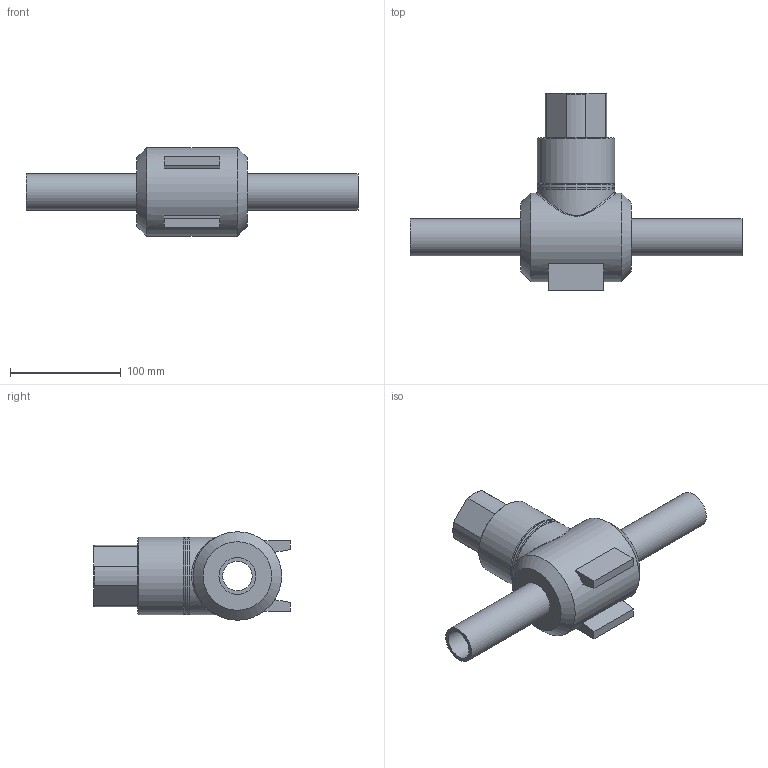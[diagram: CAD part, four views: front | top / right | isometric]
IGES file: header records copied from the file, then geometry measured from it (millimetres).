
Global section: file name: 536207010.ipt; native system: Autodesk Inventor 2019; preprocessor: unknown; author: Кирилл,,11,0; organization: 20170828.110610; date: 20210830.100817; units: inch
Bounding box: 300 x 178 x 80 mm (x, y, z)
Volume: 767422.6 mm3; surface area: 103860 mm2
Topology: 1 solids, 1 shells, 43 faces, 112 edges, 75 vertices
Faces by surface type: plane 20, cylinder 10, cone 7, revolution 4, bspline 2
Full cylindrical faces by diameter (mm): 33.3 x2, 70 x3, 80 x1
